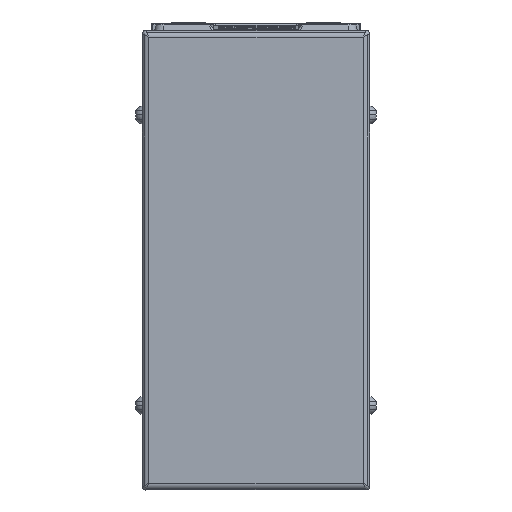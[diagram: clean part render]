
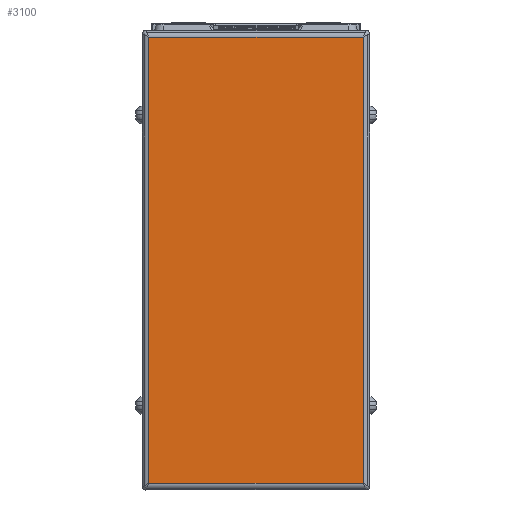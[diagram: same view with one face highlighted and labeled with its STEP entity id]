
A CAD part, left-side view. The second image highlights one B-rep face of the part: STEP entity #3100.
In plain terms, the highlighted planar face has unit normal (-1, 0, 0).
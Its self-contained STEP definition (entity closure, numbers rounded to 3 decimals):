
#3100=ADVANCED_FACE('',(#6852),#6853,.T.);
#6852=FACE_OUTER_BOUND('',#12651,.T.);
#6853=PLANE('',#12652);
#12651=EDGE_LOOP('',(#26688,#26689,#26690,#26691));
#12652=AXIS2_PLACEMENT_3D('',#26692,#26693,#26694);
#26688=ORIENTED_EDGE('',*,*,#31516,.F.);
#26689=ORIENTED_EDGE('',*,*,#31504,.F.);
#26690=ORIENTED_EDGE('',*,*,#31508,.F.);
#26691=ORIENTED_EDGE('',*,*,#31512,.F.);
#26692=CARTESIAN_POINT('',(-54.,0.,-42.5));
#26693=DIRECTION('',(-1.0,0.,0.));
#26694=DIRECTION('',(0.,0.,1.0));
#31504=EDGE_CURVE('',#38899,#38901,#38902,.T.);
#31508=EDGE_CURVE('',#38907,#38899,#38909,.T.);
#31512=EDGE_CURVE('',#38914,#38907,#38916,.T.);
#31516=EDGE_CURVE('',#38901,#38914,#38922,.T.);
#38899=VERTEX_POINT('',#50139);
#38901=VERTEX_POINT('',#50141);
#38902=LINE('',#50142,#50143);
#38907=VERTEX_POINT('',#50149);
#38909=LINE('',#50151,#50152);
#38914=VERTEX_POINT('',#50158);
#38916=LINE('',#50160,#50161);
#38922=LINE('',#50168,#50169);
#50139=CARTESIAN_POINT('',(-54.,31.7,-108.5));
#50141=CARTESIAN_POINT('',(-54.,31.7,23.5));
#50142=CARTESIAN_POINT('',(-54.,31.7,-42.5));
#50143=VECTOR('',#57829,10.0);
#50149=CARTESIAN_POINT('',(-54.,-31.7,-108.5));
#50151=CARTESIAN_POINT('',(-54.,0.,-108.5));
#50152=VECTOR('',#57837,10.0);
#50158=CARTESIAN_POINT('',(-54.,-31.7,23.5));
#50160=CARTESIAN_POINT('',(-54.0,-31.7,-42.5));
#50161=VECTOR('',#57845,10.0);
#50168=CARTESIAN_POINT('',(-54.,0.,23.5));
#50169=VECTOR('',#57853,10.0);
#57829=DIRECTION('',(0.,0.,1.0));
#57837=DIRECTION('',(0.,1.0,0.));
#57845=DIRECTION('',(0.,0.,-1.0));
#57853=DIRECTION('',(0.,-1.0,0.));
